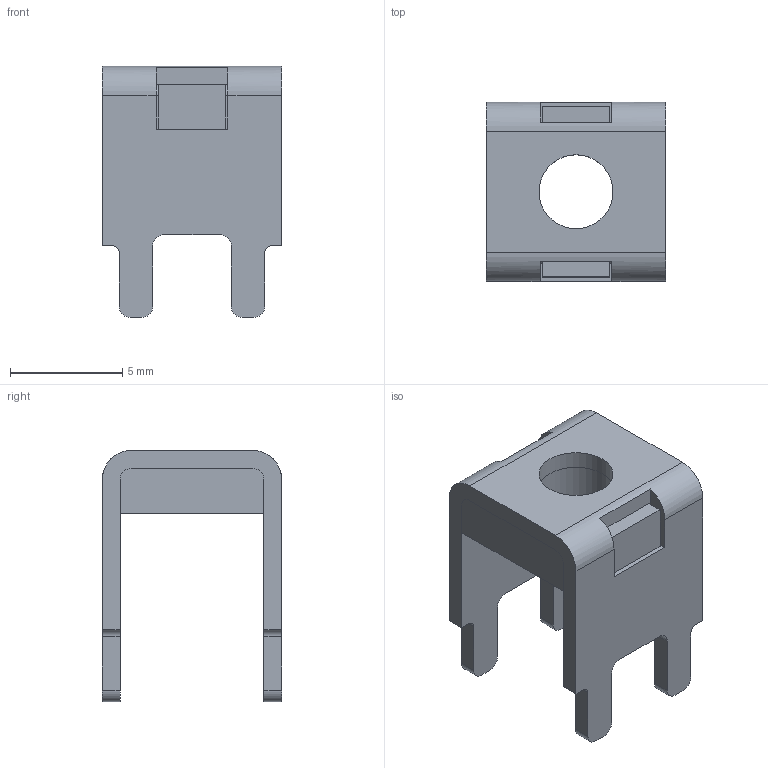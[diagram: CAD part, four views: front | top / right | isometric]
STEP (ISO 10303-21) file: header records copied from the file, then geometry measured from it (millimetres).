
FILE_DESCRIPTION(/* description */ (''),/* implementation_level */ '2;1');
FILE_NAME(/* name */ '0.8料厚M4高8.0 脚3.2mm 带铁板.stp',/* time_stamp */ '2025-06-14T16:27:15+08:00',/* author */ (''),/* organization */ (''),/* preprocessor_version */ 'ST-DEVELOPER v16',/* originating_system */ 'SIEMENS PLM Software NX 10.0',/* authorisation */ '');
FILE_SCHEMA (('AP203_CONFIGURATION_CONTROLLED_3D_DESIGN_OF_MECHANICAL_PARTS_AND_ASSEMBLIES_MIM_LF { 1 0 10303 403 2 1 2}'));
Length unit declared in the file: millimetre
Products named in the file (1): Admi1E6CB4D9qb1a
Bounding box: 8 x 8 x 11.2 mm (x, y, z)
Volume: 223.1 mm3; surface area: 594.6 mm2
Topology: 2 solids, 2 shells, 76 faces, 229 edges, 153 vertices
Faces by surface type: plane 48, cylinder 28
Full cylindrical faces by diameter (mm): 3.3 x2
Entity records: 2668 total; most frequent: CARTESIAN_POINT 455, ORIENTED_EDGE 452, DIRECTION 440, EDGE_CURVE 226, LINE 166, VECTOR 166, VERTEX_POINT 152, AXIS2_PLACEMENT_3D 137
